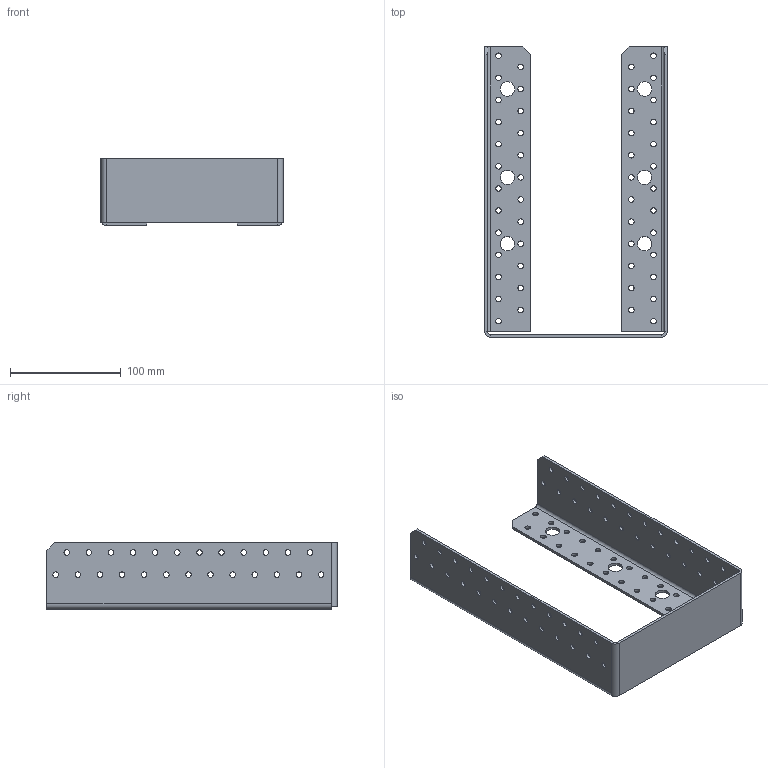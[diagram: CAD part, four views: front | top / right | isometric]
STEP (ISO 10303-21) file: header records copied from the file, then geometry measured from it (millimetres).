
FILE_DESCRIPTION (( 'STEP AP203' ), '1' );
FILE_NAME ('40561IKO.STEP', '2021-04-16T08:54:26', ( '' ), ( '' ), 'SwSTEP 2.0', 'SolidWorks 2013', '' );
FILE_SCHEMA (( 'CONFIG_CONTROL_DESIGN' ));
Length unit declared in the file: millimetre
Products named in the file (1): 40561IKO
Bounding box: 165 x 262.5 x 60.5 mm (x, y, z)
Volume: 143072.5 mm3; surface area: 123056.6 mm2
Topology: 1 solids, 1 shells, 256 faces, 732 edges, 478 vertices
Faces by surface type: cylinder 220, plane 36
Entity records: 9079 total; most frequent: DIRECTION 1688, CARTESIAN_POINT 1467, ORIENTED_EDGE 1464, EDGE_CURVE 732, AXIS2_PLACEMENT_3D 699, VERTEX_POINT 478, EDGE_LOOP 468, CIRCLE 442
